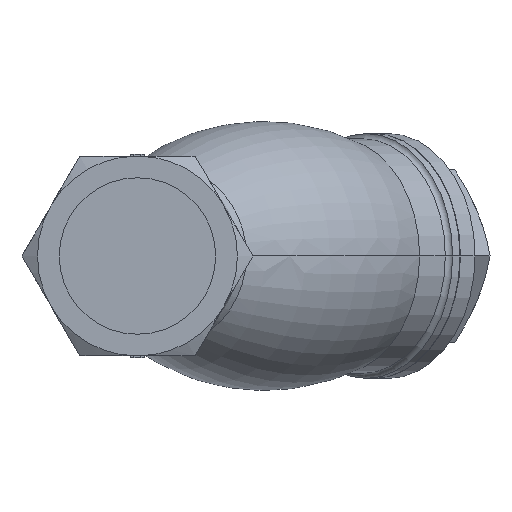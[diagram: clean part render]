
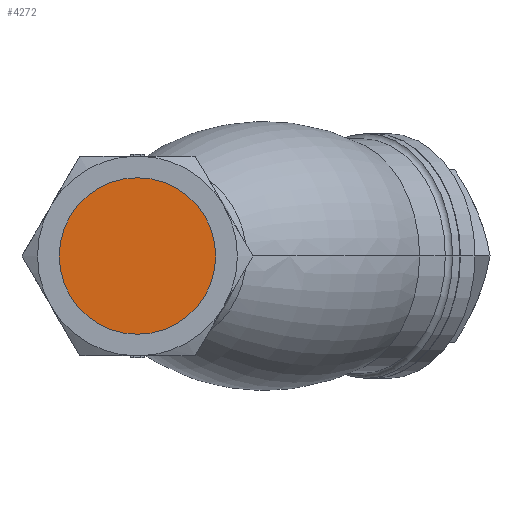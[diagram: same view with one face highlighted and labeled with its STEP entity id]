
A CAD part, left-side view. The second image highlights one B-rep face of the part: STEP entity #4272.
In plain terms, the highlighted planar face has unit normal (-1, 0, 0).
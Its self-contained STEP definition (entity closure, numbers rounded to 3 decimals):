
#167 = EDGE_CURVE ( 'NONE', #4340, #2716, #1876, .T. ) ;
#301 = CARTESIAN_POINT ( 'NONE',  ( -29.5, 0., 22.7 ) ) ;
#373 = PLANE ( 'NONE',  #4196 ) ;
#557 = ORIENTED_EDGE ( 'NONE', *, *, #4533, .T. ) ;
#722 = CARTESIAN_POINT ( 'NONE',  ( -29.5, 0., 0. ) ) ;
#994 = CIRCLE ( 'NONE', #3387, 22.7 ) ;
#1046 = FACE_OUTER_BOUND ( 'NONE', #1353, .T. ) ;
#1290 = DIRECTION ( 'NONE',  ( 0., 0., 1. ) ) ;
#1353 = EDGE_LOOP ( 'NONE', ( #3060, #557 ) ) ;
#1876 = CIRCLE ( 'NONE', #4415, 22.7 ) ;
#1990 = DIRECTION ( 'NONE',  ( -1., 0., 0. ) ) ;
#2716 = VERTEX_POINT ( 'NONE', #3553 ) ;
#2846 = DIRECTION ( 'NONE',  ( -1., 0., 0. ) ) ;
#3060 = ORIENTED_EDGE ( 'NONE', *, *, #167, .T. ) ;
#3160 = CARTESIAN_POINT ( 'NONE',  ( -29.5, 0., 0. ) ) ;
#3335 = DIRECTION ( 'NONE',  ( 0., 0., 1. ) ) ;
#3387 = AXIS2_PLACEMENT_3D ( 'NONE', #3160, #4637, #3847 ) ;
#3553 = CARTESIAN_POINT ( 'NONE',  ( -29.5, 0., -22.7 ) ) ;
#3847 = DIRECTION ( 'NONE',  ( 0., 0., 1. ) ) ;
#4196 = AXIS2_PLACEMENT_3D ( 'NONE', #722, #2846, #3335 ) ;
#4272 = ADVANCED_FACE ( 'NONE', ( #1046 ), #373, .T. ) ;
#4340 = VERTEX_POINT ( 'NONE', #301 ) ;
#4415 = AXIS2_PLACEMENT_3D ( 'NONE', #4614, #1990, #1290 ) ;
#4533 = EDGE_CURVE ( 'NONE', #2716, #4340, #994, .T. ) ;
#4614 = CARTESIAN_POINT ( 'NONE',  ( -29.5, 0., 0. ) ) ;
#4637 = DIRECTION ( 'NONE',  ( -1., 0., 0. ) ) ;
